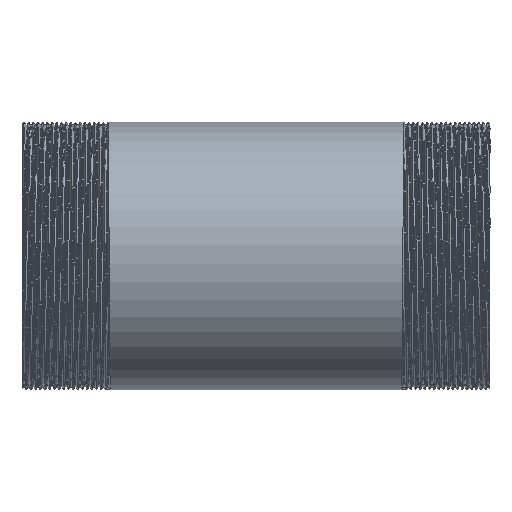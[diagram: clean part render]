
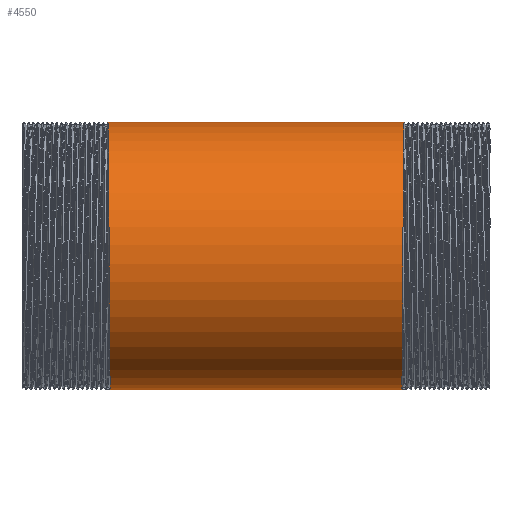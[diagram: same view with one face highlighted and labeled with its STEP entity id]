
A CAD part, front view. The second image highlights one B-rep face of the part: STEP entity #4550.
In plain terms, the highlighted cylindrical face has radius 57.15 mm (diameter 114.3 mm), a partial arc.
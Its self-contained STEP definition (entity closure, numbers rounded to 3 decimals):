
#186 = EDGE_LOOP ( 'NONE', ( #6457, #13170, #10542, #2700 ) ) ;
#451 = CARTESIAN_POINT ( 'NONE',  ( -62.35, -18.569, -57.15 ) ) ;
#1026 = CARTESIAN_POINT ( 'NONE',  ( -63.25, 0., 57.15 ) ) ;
#1386 = CARTESIAN_POINT ( 'NONE',  ( 62.75, -60.091, 0. ) ) ;
#2445 = CYLINDRICAL_SURFACE ( 'NONE', #8468, 57.15 ) ;
#2549 = DIRECTION ( 'NONE',  ( -1., 0., 0. ) ) ;
#2700 = ORIENTED_EDGE ( 'NONE', *, *, #7234, .F. ) ;
#3834 = CARTESIAN_POINT ( 'NONE',  ( -63.05, -33.592, 46.235 ) ) ;
#4131 = EDGE_CURVE ( 'NONE', #7042, #15774, #5498, .T. ) ;
#4398 = CARTESIAN_POINT ( 'NONE',  ( -62.25, 0., -57.15 ) ) ;
#4480 = CARTESIAN_POINT ( 'NONE',  ( 62.25, 0., -57.15 ) ) ;
#4550 = ADVANCED_FACE ( 'NONE', ( #16154 ), #2445, .T. ) ;
#4785 = CARTESIAN_POINT ( 'NONE',  ( 62.65, -54.353, -17.66 ) ) ;
#4896 = VECTOR ( 'NONE', #17706, 1000. ) ;
#5266 = LINE ( 'NONE', #8263, #9164 ) ;
#5433 = CARTESIAN_POINT ( 'NONE',  ( -62.95, -48.615, 35.321 ) ) ;
#5498 = LINE ( 'NONE', #17511, #4896 ) ;
#5903 = EDGE_CURVE ( 'NONE', #11391, #13503, #5266, .T. ) ;
#6457 = ORIENTED_EDGE ( 'NONE', *, *, #4131, .F. ) ;
#6838 = CARTESIAN_POINT ( 'NONE',  ( -62.55, -48.615, -35.321 ) ) ;
#7042 = VERTEX_POINT ( 'NONE', #7225 ) ;
#7225 = CARTESIAN_POINT ( 'NONE',  ( 62.25, 0., -57.15 ) ) ;
#7234 = EDGE_CURVE ( 'NONE', #15774, #13503, #9050, .T. ) ;
#7573 = CARTESIAN_POINT ( 'NONE',  ( 62.45, -33.592, -46.235 ) ) ;
#7779 = CARTESIAN_POINT ( 'NONE',  ( 62.35, -18.569, -57.15 ) ) ;
#8044 = CARTESIAN_POINT ( 'NONE',  ( -63.25, 0., 57.15 ) ) ;
#8263 = CARTESIAN_POINT ( 'NONE',  ( -149.494, 0., 57.15 ) ) ;
#8468 = AXIS2_PLACEMENT_3D ( 'NONE', #19251, #2549, #11560 ) ;
#9050 =( BOUNDED_CURVE ( )  B_SPLINE_CURVE ( 2, ( #15941, #451, #11447, #6838, #19141, #12848, #17544, #5433, #3834, #17153, #8044 ),
 .UNSPECIFIED., .F., .T. ) 
 B_SPLINE_CURVE_WITH_KNOTS ( ( 3, 2, 2, 2, 2, 3 ),
 ( 0., 0.005, 0.01, 0.014, 0.019, 0.024 ),
 .UNSPECIFIED. ) 
 CURVE ( )  GEOMETRIC_REPRESENTATION_ITEM ( )  RATIONAL_B_SPLINE_CURVE ( ( 1., 0.951, 1., 0.951, 1., 0.951, 1., 0.951, 1., 0.951, 1. ) ) 
 REPRESENTATION_ITEM ( '' )  );
#9144 = EDGE_CURVE ( 'NONE', #7042, #11391, #15947, .T. ) ;
#9164 = VECTOR ( 'NONE', #12682, 1000. ) ;
#9380 = CARTESIAN_POINT ( 'NONE',  ( 63.05, -33.592, 46.235 ) ) ;
#10542 = ORIENTED_EDGE ( 'NONE', *, *, #5903, .T. ) ;
#10589 = CARTESIAN_POINT ( 'NONE',  ( 62.85, -54.353, 17.66 ) ) ;
#11391 = VERTEX_POINT ( 'NONE', #17655 ) ;
#11447 = CARTESIAN_POINT ( 'NONE',  ( -62.45, -33.592, -46.235 ) ) ;
#11560 = DIRECTION ( 'NONE',  ( 0., 0., 1. ) ) ;
#12682 = DIRECTION ( 'NONE',  ( -1., 0., 0. ) ) ;
#12848 = CARTESIAN_POINT ( 'NONE',  ( -62.75, -60.091, 0. ) ) ;
#13170 = ORIENTED_EDGE ( 'NONE', *, *, #9144, .T. ) ;
#13503 = VERTEX_POINT ( 'NONE', #1026 ) ;
#13682 = CARTESIAN_POINT ( 'NONE',  ( 62.55, -48.615, -35.321 ) ) ;
#15774 = VERTEX_POINT ( 'NONE', #4398 ) ;
#15941 = CARTESIAN_POINT ( 'NONE',  ( -62.25, 0., -57.15 ) ) ;
#15947 =( BOUNDED_CURVE ( )  B_SPLINE_CURVE ( 2, ( #4480, #7779, #7573, #13682, #4785, #1386, #10589, #16684, #9380, #19683, #16889 ),
 .UNSPECIFIED., .F., .T. ) 
 B_SPLINE_CURVE_WITH_KNOTS ( ( 3, 2, 2, 2, 2, 3 ),
 ( 0., 0.005, 0.01, 0.014, 0.019, 0.024 ),
 .UNSPECIFIED. ) 
 CURVE ( )  GEOMETRIC_REPRESENTATION_ITEM ( )  RATIONAL_B_SPLINE_CURVE ( ( 1., 0.951, 1., 0.951, 1., 0.951, 1., 0.951, 1., 0.951, 1. ) ) 
 REPRESENTATION_ITEM ( '' )  );
#16154 = FACE_OUTER_BOUND ( 'NONE', #186, .T. ) ;
#16684 = CARTESIAN_POINT ( 'NONE',  ( 62.95, -48.615, 35.321 ) ) ;
#16889 = CARTESIAN_POINT ( 'NONE',  ( 63.25, 0., 57.15 ) ) ;
#17153 = CARTESIAN_POINT ( 'NONE',  ( -63.15, -18.569, 57.15 ) ) ;
#17511 = CARTESIAN_POINT ( 'NONE',  ( -149.494, 0., -57.15 ) ) ;
#17544 = CARTESIAN_POINT ( 'NONE',  ( -62.85, -54.353, 17.66 ) ) ;
#17655 = CARTESIAN_POINT ( 'NONE',  ( 63.25, 0., 57.15 ) ) ;
#17706 = DIRECTION ( 'NONE',  ( -1., 0., 0. ) ) ;
#19141 = CARTESIAN_POINT ( 'NONE',  ( -62.65, -54.353, -17.66 ) ) ;
#19251 = CARTESIAN_POINT ( 'NONE',  ( -149.494, 0., 0. ) ) ;
#19683 = CARTESIAN_POINT ( 'NONE',  ( 63.15, -18.569, 57.15 ) ) ;
